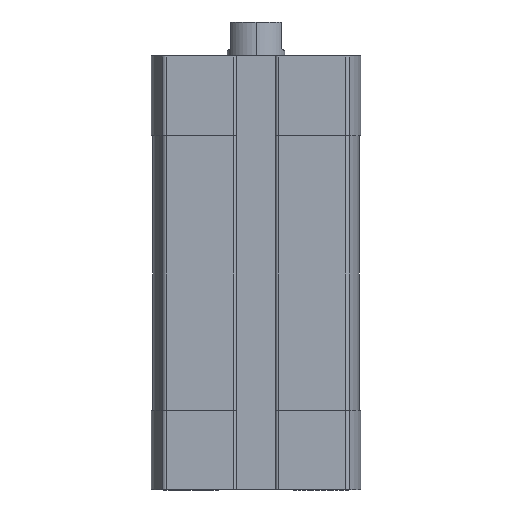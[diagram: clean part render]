
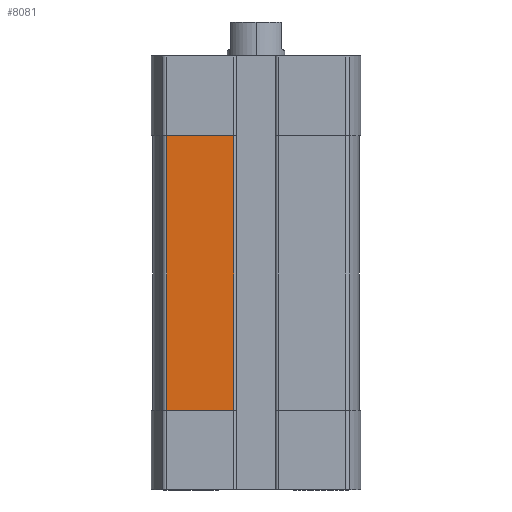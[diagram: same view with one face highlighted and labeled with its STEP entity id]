
A CAD part, left-side view. The second image highlights one B-rep face of the part: STEP entity #8081.
In plain terms, the highlighted planar face has unit normal (-1, 0, 0).
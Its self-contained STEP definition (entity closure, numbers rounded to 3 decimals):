
#44 = LINE ( 'NONE', #3166, #3950 ) ;
#261 = DIRECTION ( 'NONE',  ( 0., 0., 1. ) ) ;
#438 = ORIENTED_EDGE ( 'NONE', *, *, #9251, .T. ) ;
#649 = CARTESIAN_POINT ( 'NONE',  ( -14.25, 12.347, -49. ) ) ;
#780 = VERTEX_POINT ( 'NONE', #10963 ) ;
#1055 = DIRECTION ( 'NONE',  ( 0., 0., -1. ) ) ;
#1676 = LINE ( 'NONE', #5464, #10833 ) ;
#1682 = FACE_OUTER_BOUND ( 'NONE', #11435, .T. ) ;
#2219 = CARTESIAN_POINT ( 'NONE',  ( -14.25, 3.1, -11. ) ) ;
#2288 = VERTEX_POINT ( 'NONE', #2532 ) ;
#2532 = CARTESIAN_POINT ( 'NONE',  ( -14.25, 3.1, -49. ) ) ;
#2771 = VERTEX_POINT ( 'NONE', #2219 ) ;
#2909 = PLANE ( 'NONE',  #3261 ) ;
#3166 = CARTESIAN_POINT ( 'NONE',  ( -14.25, 12.347, -49. ) ) ;
#3261 = AXIS2_PLACEMENT_3D ( 'NONE', #10930, #5622, #261 ) ;
#3474 = LINE ( 'NONE', #6550, #10294 ) ;
#3884 = DIRECTION ( 'NONE',  ( 0., 1., 0. ) ) ;
#3933 = CARTESIAN_POINT ( 'NONE',  ( -14.25, 3.1, -49. ) ) ;
#3950 = VECTOR ( 'NONE', #9408, 1000. ) ;
#3987 = ORIENTED_EDGE ( 'NONE', *, *, #8140, .T. ) ;
#4226 = ORIENTED_EDGE ( 'NONE', *, *, #6328, .T. ) ;
#5313 = VECTOR ( 'NONE', #8376, 1000. ) ;
#5464 = CARTESIAN_POINT ( 'NONE',  ( -14.25, 12.347, -49. ) ) ;
#5622 = DIRECTION ( 'NONE',  ( -1., 0., 0. ) ) ;
#6328 = EDGE_CURVE ( 'NONE', #6751, #2288, #44, .T. ) ;
#6550 = CARTESIAN_POINT ( 'NONE',  ( -14.25, 0., -11. ) ) ;
#6751 = VERTEX_POINT ( 'NONE', #649 ) ;
#7683 = LINE ( 'NONE', #3933, #5313 ) ;
#8081 = ADVANCED_FACE ( 'NONE', ( #1682 ), #2909, .T. ) ;
#8115 = EDGE_CURVE ( 'NONE', #2771, #780, #3474, .T. ) ;
#8140 = EDGE_CURVE ( 'NONE', #2288, #2771, #7683, .T. ) ;
#8376 = DIRECTION ( 'NONE',  ( 0., 0., 1. ) ) ;
#8964 = ORIENTED_EDGE ( 'NONE', *, *, #8115, .T. ) ;
#9251 = EDGE_CURVE ( 'NONE', #780, #6751, #1676, .T. ) ;
#9408 = DIRECTION ( 'NONE',  ( 0., -1., 0. ) ) ;
#10294 = VECTOR ( 'NONE', #3884, 1000. ) ;
#10833 = VECTOR ( 'NONE', #1055, 1000. ) ;
#10930 = CARTESIAN_POINT ( 'NONE',  ( -14.25, 12.347, -49. ) ) ;
#10963 = CARTESIAN_POINT ( 'NONE',  ( -14.25, 12.347, -11. ) ) ;
#11435 = EDGE_LOOP ( 'NONE', ( #4226, #3987, #8964, #438 ) ) ;
